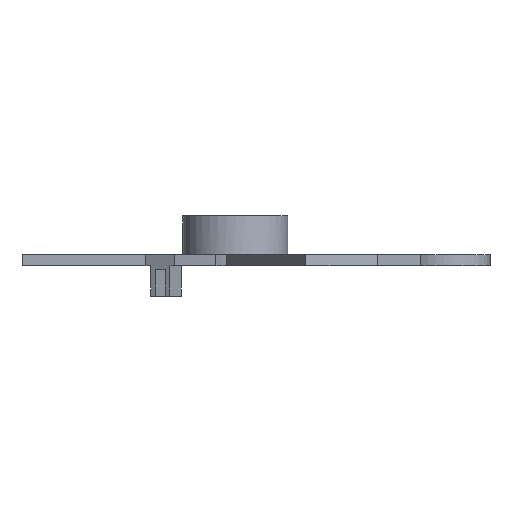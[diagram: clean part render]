
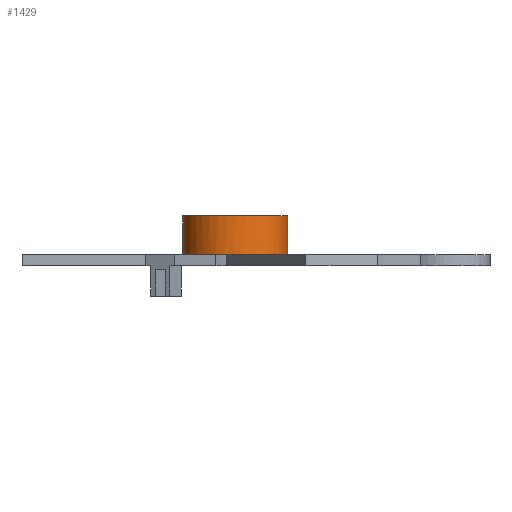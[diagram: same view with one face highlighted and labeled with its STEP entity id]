
A CAD part, front view. The second image highlights one B-rep face of the part: STEP entity #1429.
In plain terms, the highlighted cylindrical face has radius 19 mm (diameter 38 mm), a partial arc.
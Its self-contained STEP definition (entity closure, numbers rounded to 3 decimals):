
#561 = EDGE_CURVE('',#562,#564,#566,.T.);
#562 = VERTEX_POINT('',#563);
#563 = CARTESIAN_POINT('',(95.821,71.584,15.));
#564 = VERTEX_POINT('',#565);
#565 = CARTESIAN_POINT('',(96.,74.184,15.));
#566 = CIRCLE('',#567,19.);
#567 = AXIS2_PLACEMENT_3D('',#568,#569,#570);
#568 = CARTESIAN_POINT('',(77.,74.184,15.));
#569 = DIRECTION('',(0.,0.,1.));
#570 = DIRECTION('',(1.,0.,0.));
#572 = EDGE_CURVE('',#573,#562,#575,.T.);
#573 = VERTEX_POINT('',#574);
#574 = CARTESIAN_POINT('',(88.662,59.184,15.));
#575 = CIRCLE('',#576,19.);
#576 = AXIS2_PLACEMENT_3D('',#577,#578,#579);
#577 = CARTESIAN_POINT('',(77.,74.184,15.));
#578 = DIRECTION('',(0.,0.,1.));
#579 = DIRECTION('',(1.,0.,0.));
#581 = EDGE_CURVE('',#582,#573,#584,.T.);
#582 = VERTEX_POINT('',#583);
#583 = CARTESIAN_POINT('',(73.182,55.571,15.));
#584 = CIRCLE('',#585,19.);
#585 = AXIS2_PLACEMENT_3D('',#586,#587,#588);
#586 = CARTESIAN_POINT('',(77.,74.184,15.));
#587 = DIRECTION('',(0.,0.,1.));
#588 = DIRECTION('',(1.,0.,0.));
#590 = EDGE_CURVE('',#591,#582,#593,.T.);
#591 = VERTEX_POINT('',#592);
#592 = CARTESIAN_POINT('',(69.841,56.584,15.));
#593 = CIRCLE('',#594,19.);
#594 = AXIS2_PLACEMENT_3D('',#595,#596,#597);
#595 = CARTESIAN_POINT('',(77.,74.184,15.));
#596 = DIRECTION('',(0.,0.,1.));
#597 = DIRECTION('',(1.,0.,0.));
#599 = EDGE_CURVE('',#600,#591,#602,.T.);
#600 = VERTEX_POINT('',#601);
#601 = CARTESIAN_POINT('',(65.338,59.184,15.));
#602 = CIRCLE('',#603,19.);
#603 = AXIS2_PLACEMENT_3D('',#604,#605,#606);
#604 = CARTESIAN_POINT('',(77.,74.184,15.));
#605 = DIRECTION('',(0.,0.,1.));
#606 = DIRECTION('',(1.,0.,0.));
#608 = EDGE_CURVE('',#609,#600,#611,.T.);
#609 = VERTEX_POINT('',#610);
#610 = CARTESIAN_POINT('',(62.79,61.571,15.));
#611 = CIRCLE('',#612,19.);
#612 = AXIS2_PLACEMENT_3D('',#613,#614,#615);
#613 = CARTESIAN_POINT('',(77.,74.184,15.));
#614 = DIRECTION('',(0.,0.,1.));
#615 = DIRECTION('',(1.,0.,0.));
#617 = EDGE_CURVE('',#618,#609,#620,.T.);
#618 = VERTEX_POINT('',#619);
#619 = CARTESIAN_POINT('',(58.009,73.584,15.));
#620 = CIRCLE('',#621,19.);
#621 = AXIS2_PLACEMENT_3D('',#622,#623,#624);
#622 = CARTESIAN_POINT('',(77.,74.184,15.));
#623 = DIRECTION('',(0.,0.,1.));
#624 = DIRECTION('',(1.,0.,0.));
#1429 = ADVANCED_FACE('',(#1430),#1462,.T.);
#1430 = FACE_BOUND('',#1431,.T.);
#1431 = EDGE_LOOP('',(#1432,#1433,#1441,#1450,#1456,#1457,#1458,#1459,
    #1460,#1461));
#1432 = ORIENTED_EDGE('',*,*,#561,.T.);
#1433 = ORIENTED_EDGE('',*,*,#1434,.T.);
#1434 = EDGE_CURVE('',#564,#1435,#1437,.T.);
#1435 = VERTEX_POINT('',#1436);
#1436 = CARTESIAN_POINT('',(96.,74.184,28.99));
#1437 = LINE('',#1438,#1439);
#1438 = CARTESIAN_POINT('',(96.,74.184,14.99));
#1439 = VECTOR('',#1440,1.);
#1440 = DIRECTION('',(0.,0.,1.));
#1441 = ORIENTED_EDGE('',*,*,#1442,.F.);
#1442 = EDGE_CURVE('',#1443,#1435,#1445,.T.);
#1443 = VERTEX_POINT('',#1444);
#1444 = CARTESIAN_POINT('',(58.009,73.584,28.99));
#1445 = CIRCLE('',#1446,19.);
#1446 = AXIS2_PLACEMENT_3D('',#1447,#1448,#1449);
#1447 = CARTESIAN_POINT('',(77.,74.184,28.99));
#1448 = DIRECTION('',(0.,0.,1.));
#1449 = DIRECTION('',(1.,0.,0.));
#1450 = ORIENTED_EDGE('',*,*,#1451,.F.);
#1451 = EDGE_CURVE('',#618,#1443,#1452,.T.);
#1452 = LINE('',#1453,#1454);
#1453 = CARTESIAN_POINT('',(58.009,73.584,14.99));
#1454 = VECTOR('',#1455,1.);
#1455 = DIRECTION('',(0.,0.,1.));
#1456 = ORIENTED_EDGE('',*,*,#617,.T.);
#1457 = ORIENTED_EDGE('',*,*,#608,.T.);
#1458 = ORIENTED_EDGE('',*,*,#599,.T.);
#1459 = ORIENTED_EDGE('',*,*,#590,.T.);
#1460 = ORIENTED_EDGE('',*,*,#581,.T.);
#1461 = ORIENTED_EDGE('',*,*,#572,.T.);
#1462 = CYLINDRICAL_SURFACE('',#1463,19.);
#1463 = AXIS2_PLACEMENT_3D('',#1464,#1465,#1466);
#1464 = CARTESIAN_POINT('',(77.,74.184,14.99));
#1465 = DIRECTION('',(0.,0.,1.));
#1466 = DIRECTION('',(1.,0.,0.));
